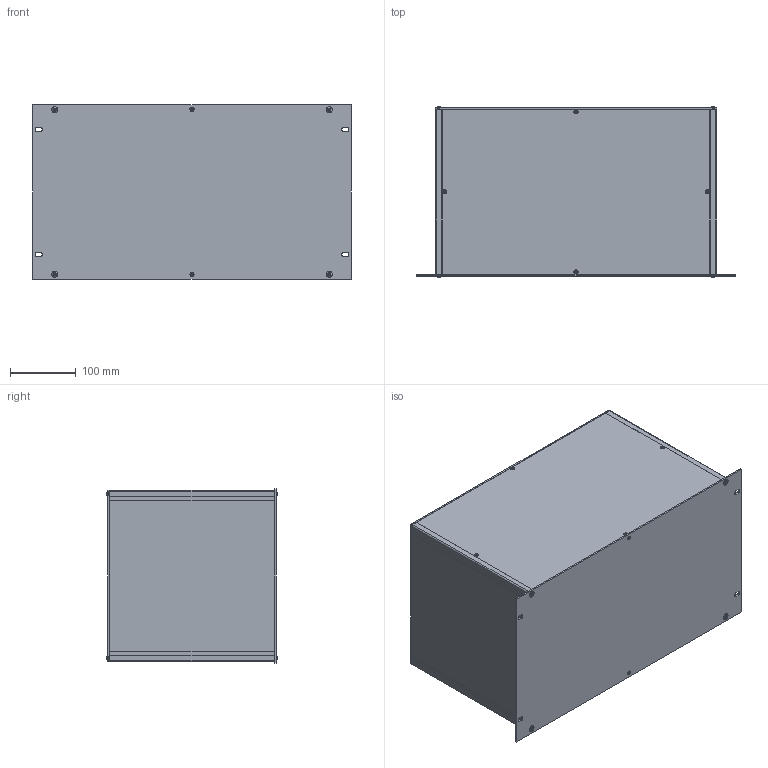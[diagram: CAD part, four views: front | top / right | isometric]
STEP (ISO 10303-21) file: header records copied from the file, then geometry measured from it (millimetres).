
FILE_DESCRIPTION(/* description */ (''),/* implementation_level */ '2;1');
FILE_NAME(/* name */ '//diskstation/Kunden/Gehäuse/Gehäuse/6HE/step/Zoll 6HE Rack Gehäuse Tiefe-250.step',/* time_stamp */ '2022-02-17T16:55:37+01:00',/* author */ (''),/* organization */ (''),/* preprocessor_version */ 'ST-DEVELOPER v18.1',/* originating_system */ 'Autodesk Translation Framework v10.10.0.1391',/* authorisation */ '');
FILE_SCHEMA (('AUTOMOTIVE_DESIGN { 1 0 10303 214 3 1 1 }'));
Length unit declared in the file: millimetre
Products named in the file (28): 6HE Gehäuse mit parametern; Gehäuse; Gehäuseprofil 1 unten links; Gehäuseprofil 2 oben rechts; Gehäuseprofil 1 unten rechts; Gehäuseprofil 2 oben links; Rückplatte; Deckel; Seitenteil links; Seitenteil rechts; Bodenplatte; Montageklotz Front/Deckel; Montageklotz Front/Boden; Montageklotz Rück/Deckel; Montageklotz Rück/Boden; Gewindestreifen; Frontplatte; Schrauben M5; Schraube Front; Schraube Front (1); Schraube Front (2); Schraube Front (3); Schraube Rück (1); Schraube Rück; Schraube Rück (2); Schraube Rück (3); Schrauben M3; HI_Senkschraube DIN 965 A v2 M3x5 24677.030.005(High)
Assembly tree (37 placements, depth 3):
  6HE Gehäuse mit parametern
    Gehäuse
      Gehäuseprofil 1 unten links
      Gehäuseprofil 2 oben rechts
      Gehäuseprofil 1 unten rechts
      Gehäuseprofil 2 oben links
      Rückplatte
      Deckel
      Seitenteil links
      Seitenteil rechts
      Bodenplatte
      Montageklotz Front/Deckel
      Montageklotz Front/Boden
      Montageklotz Rück/Deckel
      Montageklotz Rück/Boden
      Gewindestreifen  x2
    Frontplatte
    Schrauben M5
      Schraube Front
      Schraube Front (1)
      Schraube Front (2)
      Schraube Front (3)
      Schraube Rück (1)
      Schraube Rück
      Schraube Rück (2)
      Schraube Rück (3)
    Schrauben M3
      HI_Senkschraube DIN 965 A v2 M3x5 24677.030.005(High)  x10
Bounding box: 483 x 258.2 x 265 mm (x, y, z)
Volume: 1455790.4 mm3; surface area: 1247238.7 mm2
Topology: 34 solids, 34 shells, 854 faces, 2076 edges, 1290 vertices
Faces by surface type: plane 342, cylinder 332, cone 164, torus 8, bspline 8
Full cylindrical faces by diameter (mm): 2.529 x90, 3 x10, 3.2 x10, 4.234 x40, 5 x8, 5.2 x4, 5.3 x8, 5.6 x10, 9.5 x8
Entity records: 16845 total; most frequent: CARTESIAN_POINT 3078, DIRECTION 2820, ORIENTED_EDGE 2490, EDGE_CURVE 1245, AXIS2_PLACEMENT_3D 1060, VERTEX_POINT 778, EDGE_LOOP 731, LINE 700
